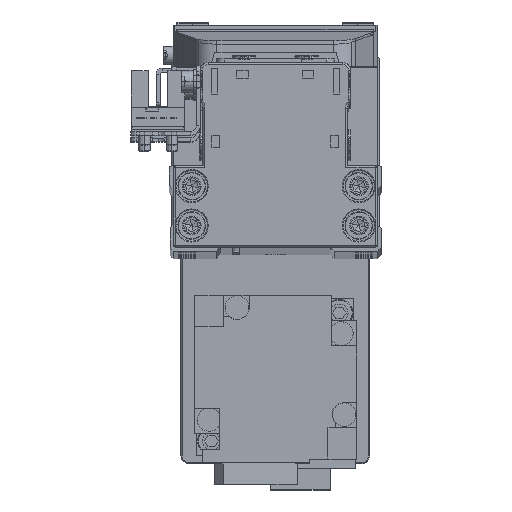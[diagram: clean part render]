
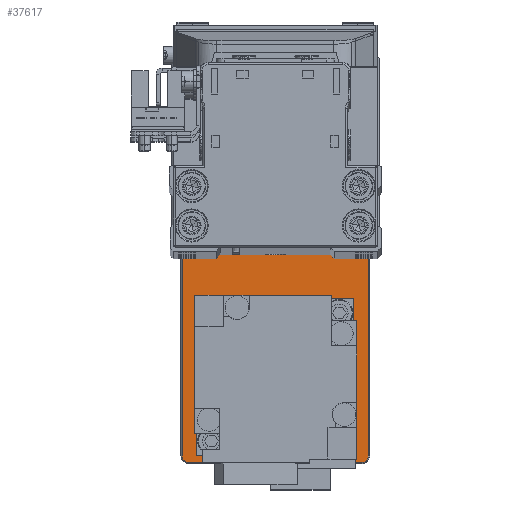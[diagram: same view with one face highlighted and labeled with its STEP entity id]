
A CAD part, top view. The second image highlights one B-rep face of the part: STEP entity #37617.
In plain terms, the highlighted planar face has unit normal (0, 0, 1).
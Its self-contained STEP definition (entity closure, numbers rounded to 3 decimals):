
#97 = AXIS2_PLACEMENT_3D ( 'NONE', #34965, #6609, #19235 ) ;
#1063 = EDGE_CURVE ( 'NONE', #28648, #24058, #26086, .T. ) ;
#1695 = CARTESIAN_POINT ( 'NONE',  ( 17.2, 0., 5. ) ) ;
#1743 = VERTEX_POINT ( 'NONE', #31004 ) ;
#2042 = DIRECTION ( 'NONE',  ( 0., 0., -1. ) ) ;
#2163 = AXIS2_PLACEMENT_3D ( 'NONE', #2686, #15299, #27930 ) ;
#2277 = CARTESIAN_POINT ( 'NONE',  ( -50., -23.7, 5. ) ) ;
#2686 = CARTESIAN_POINT ( 'NONE',  ( -28., 0., 5. ) ) ;
#3312 = CARTESIAN_POINT ( 'NONE',  ( -50., 23.7, 5. ) ) ;
#3327 = VECTOR ( 'NONE', #19352, 1000. ) ;
#5648 = VECTOR ( 'NONE', #10352, 1000. ) ;
#6239 = DIRECTION ( 'NONE',  ( 0., 0., 1. ) ) ;
#6609 = DIRECTION ( 'NONE',  ( 0., 0., 1. ) ) ;
#6732 = CARTESIAN_POINT ( 'NONE',  ( -51.7, -22., 5. ) ) ;
#6836 = CARTESIAN_POINT ( 'NONE',  ( 50., -23.7, 5. ) ) ;
#6896 = ORIENTED_EDGE ( 'NONE', *, *, #38441, .T. ) ;
#7023 = DIRECTION ( 'NONE',  ( 1., 0., 0. ) ) ;
#7172 = ORIENTED_EDGE ( 'NONE', *, *, #38838, .T. ) ;
#7427 = AXIS2_PLACEMENT_3D ( 'NONE', #34596, #6239, #18856 ) ;
#7700 = ORIENTED_EDGE ( 'NONE', *, *, #27834, .T. ) ;
#7723 = EDGE_LOOP ( 'NONE', ( #7794, #8774, #33257, #8789, #33200, #38238, #9633, #6896 ) ) ;
#7794 = ORIENTED_EDGE ( 'NONE', *, *, #1063, .T. ) ;
#7873 = CARTESIAN_POINT ( 'NONE',  ( 30., 0., 5. ) ) ;
#7962 = LINE ( 'NONE', #20586, #14893 ) ;
#8774 = ORIENTED_EDGE ( 'NONE', *, *, #11664, .T. ) ;
#8789 = ORIENTED_EDGE ( 'NONE', *, *, #31487, .T. ) ;
#8871 = CARTESIAN_POINT ( 'NONE',  ( 50., 22., 5. ) ) ;
#9192 = CIRCLE ( 'NONE', #14459, 1.7 ) ;
#9633 = ORIENTED_EDGE ( 'NONE', *, *, #27877, .T. ) ;
#9701 = FACE_OUTER_BOUND ( 'NONE', #7723, .T. ) ;
#9747 = CARTESIAN_POINT ( 'NONE',  ( 42.8, 0., 5. ) ) ;
#10352 = DIRECTION ( 'NONE',  ( 1., 0., 0. ) ) ;
#10596 = CIRCLE ( 'NONE', #33728, 10.3 ) ;
#11170 = AXIS2_PLACEMENT_3D ( 'NONE', #7873, #20500, #33124 ) ;
#11292 = CARTESIAN_POINT ( 'NONE',  ( 51.7, 22., 5. ) ) ;
#11664 = EDGE_CURVE ( 'NONE', #24058, #31821, #9192, .T. ) ;
#12721 = CARTESIAN_POINT ( 'NONE',  ( -28., 0., 5. ) ) ;
#13178 = EDGE_LOOP ( 'NONE', ( #15604, #35291 ) ) ;
#14348 = CARTESIAN_POINT ( 'NONE',  ( -50., 22., 5. ) ) ;
#14459 = AXIS2_PLACEMENT_3D ( 'NONE', #22759, #35374, #7023 ) ;
#14642 = CARTESIAN_POINT ( 'NONE',  ( -38.3, 0., 5. ) ) ;
#14663 = DIRECTION ( 'NONE',  ( 1., 0., 0. ) ) ;
#14893 = VECTOR ( 'NONE', #33208, 1000. ) ;
#15299 = DIRECTION ( 'NONE',  ( 0., 0., -1. ) ) ;
#15604 = ORIENTED_EDGE ( 'NONE', *, *, #33609, .T. ) ;
#15881 = AXIS2_PLACEMENT_3D ( 'NONE', #14348, #26991, #39600 ) ;
#15925 = DIRECTION ( 'NONE',  ( -1., 0., 0. ) ) ;
#17626 = CIRCLE ( 'NONE', #40760, 1.7 ) ;
#18069 = EDGE_CURVE ( 'NONE', #26807, #20362, #28962, .T. ) ;
#18856 = DIRECTION ( 'NONE',  ( 1., 0., 0. ) ) ;
#19235 = DIRECTION ( 'NONE',  ( 1., 0., 0. ) ) ;
#19352 = DIRECTION ( 'NONE',  ( 0., -1., 0. ) ) ;
#19731 = CARTESIAN_POINT ( 'NONE',  ( -51.7, 22., 5. ) ) ;
#20011 = CIRCLE ( 'NONE', #2163, 10.3 ) ;
#20069 = CARTESIAN_POINT ( 'NONE',  ( -50., 23.7, 5. ) ) ;
#20362 = VERTEX_POINT ( 'NONE', #9747 ) ;
#20500 = DIRECTION ( 'NONE',  ( 0., 0., -1. ) ) ;
#20586 = CARTESIAN_POINT ( 'NONE',  ( 51.7, 22., 5. ) ) ;
#20916 = EDGE_CURVE ( 'NONE', #31821, #34494, #7962, .T. ) ;
#21491 = DIRECTION ( 'NONE',  ( 0., 0., 1. ) ) ;
#22342 = PLANE ( 'NONE',  #97 ) ;
#22346 = VECTOR ( 'NONE', #15925, 1000. ) ;
#22759 = CARTESIAN_POINT ( 'NONE',  ( 50., -22., 5. ) ) ;
#23184 = EDGE_CURVE ( 'NONE', #1743, #35965, #31675, .T. ) ;
#24058 = VERTEX_POINT ( 'NONE', #6836 ) ;
#25274 = CIRCLE ( 'NONE', #7427, 1.7 ) ;
#25352 = DIRECTION ( 'NONE',  ( 0., 0., -1. ) ) ;
#25433 = FACE_BOUND ( 'NONE', #13178, .T. ) ;
#26086 = LINE ( 'NONE', #38698, #5648 ) ;
#26807 = VERTEX_POINT ( 'NONE', #1695 ) ;
#26991 = DIRECTION ( 'NONE',  ( 0., 0., 1. ) ) ;
#27834 = EDGE_CURVE ( 'NONE', #28166, #39199, #10596, .T. ) ;
#27877 = EDGE_CURVE ( 'NONE', #31869, #38830, #35087, .T. ) ;
#27930 = DIRECTION ( 'NONE',  ( 1., 0., 0. ) ) ;
#28166 = VERTEX_POINT ( 'NONE', #34000 ) ;
#28648 = VERTEX_POINT ( 'NONE', #2277 ) ;
#28832 = CARTESIAN_POINT ( 'NONE',  ( 51.7, -22., 5. ) ) ;
#28962 = CIRCLE ( 'NONE', #34239, 12.8 ) ;
#29035 = CIRCLE ( 'NONE', #11170, 12.8 ) ;
#29419 = EDGE_CURVE ( 'NONE', #35965, #31869, #33722, .T. ) ;
#30416 = CARTESIAN_POINT ( 'NONE',  ( 30., 0., 5. ) ) ;
#30850 = CARTESIAN_POINT ( 'NONE',  ( -51.7, -22., 5. ) ) ;
#31004 = CARTESIAN_POINT ( 'NONE',  ( 50., 23.7, 5. ) ) ;
#31487 = EDGE_CURVE ( 'NONE', #34494, #1743, #17626, .T. ) ;
#31675 = LINE ( 'NONE', #3312, #22346 ) ;
#31821 = VERTEX_POINT ( 'NONE', #28832 ) ;
#31869 = VERTEX_POINT ( 'NONE', #19731 ) ;
#32510 = EDGE_LOOP ( 'NONE', ( #7700, #7172 ) ) ;
#33124 = DIRECTION ( 'NONE',  ( 1., 0., 0. ) ) ;
#33200 = ORIENTED_EDGE ( 'NONE', *, *, #23184, .T. ) ;
#33208 = DIRECTION ( 'NONE',  ( 0., 1., 0. ) ) ;
#33257 = ORIENTED_EDGE ( 'NONE', *, *, #20916, .T. ) ;
#33609 = EDGE_CURVE ( 'NONE', #20362, #26807, #29035, .T. ) ;
#33722 = CIRCLE ( 'NONE', #15881, 1.7 ) ;
#33728 = AXIS2_PLACEMENT_3D ( 'NONE', #12721, #25352, #37971 ) ;
#34000 = CARTESIAN_POINT ( 'NONE',  ( -17.7, 0., 5. ) ) ;
#34120 = DIRECTION ( 'NONE',  ( 1., 0., 0. ) ) ;
#34239 = AXIS2_PLACEMENT_3D ( 'NONE', #30416, #2042, #14663 ) ;
#34494 = VERTEX_POINT ( 'NONE', #11292 ) ;
#34596 = CARTESIAN_POINT ( 'NONE',  ( -50., -22., 5. ) ) ;
#34965 = CARTESIAN_POINT ( 'NONE',  ( 0., 0., 5. ) ) ;
#35087 = LINE ( 'NONE', #6732, #3327 ) ;
#35291 = ORIENTED_EDGE ( 'NONE', *, *, #18069, .T. ) ;
#35374 = DIRECTION ( 'NONE',  ( 0., 0., 1. ) ) ;
#35965 = VERTEX_POINT ( 'NONE', #20069 ) ;
#37617 = ADVANCED_FACE ( 'NONE', ( #25433, #38055, #9701 ), #22342, .T. ) ;
#37971 = DIRECTION ( 'NONE',  ( 1., 0., 0. ) ) ;
#38055 = FACE_BOUND ( 'NONE', #32510, .T. ) ;
#38238 = ORIENTED_EDGE ( 'NONE', *, *, #29419, .T. ) ;
#38441 = EDGE_CURVE ( 'NONE', #38830, #28648, #25274, .T. ) ;
#38698 = CARTESIAN_POINT ( 'NONE',  ( 50., -23.7, 5. ) ) ;
#38830 = VERTEX_POINT ( 'NONE', #30850 ) ;
#38838 = EDGE_CURVE ( 'NONE', #39199, #28166, #20011, .T. ) ;
#39199 = VERTEX_POINT ( 'NONE', #14642 ) ;
#39600 = DIRECTION ( 'NONE',  ( 1., 0., 0. ) ) ;
#40760 = AXIS2_PLACEMENT_3D ( 'NONE', #8871, #21491, #34120 ) ;
